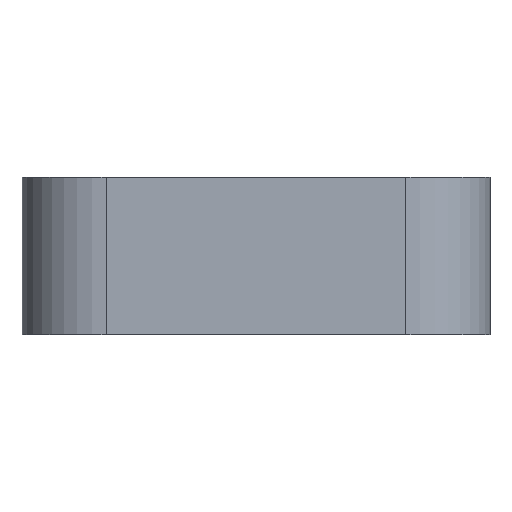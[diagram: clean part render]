
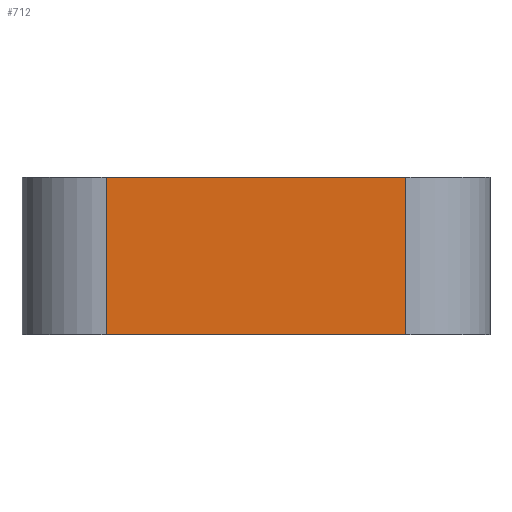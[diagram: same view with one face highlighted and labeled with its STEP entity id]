
A CAD part, left-side view. The second image highlights one B-rep face of the part: STEP entity #712.
In plain terms, the highlighted planar face has unit normal (-1, 0, 0).
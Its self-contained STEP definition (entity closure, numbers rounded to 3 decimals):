
#654=CARTESIAN_POINT('',(-11.545,-4.75,5.0));
#655=VERTEX_POINT('',#654);
#663=CARTESIAN_POINT('',(-11.545,-4.75,0.0));
#664=VERTEX_POINT('',#663);
#665=CARTESIAN_POINT('',(-11.545,-4.75,0.0));
#666=DIRECTION('',(0.0,0.0,1.0));
#667=VECTOR('',#666,5.0);
#668=LINE('',#665,#667);
#669=EDGE_CURVE('',#664,#655,#668,.T.);
#682=CARTESIAN_POINT('',(-11.545,-4.75,0.0));
#683=DIRECTION('',(-1.0,0.0,0.0));
#684=DIRECTION('',(0.0,0.0,1.0));
#685=AXIS2_PLACEMENT_3D('',#682,#683,#684);
#686=PLANE('',#685);
#687=CARTESIAN_POINT('',(-11.545,4.75,5.0));
#688=VERTEX_POINT('',#687);
#689=CARTESIAN_POINT('',(-11.545,-4.75,5.0));
#690=DIRECTION('',(0.0,1.0,0.0));
#691=VECTOR('',#690,9.5);
#692=LINE('',#689,#691);
#693=EDGE_CURVE('',#655,#688,#692,.T.);
#694=ORIENTED_EDGE('',*,*,#693,.T.);
#695=CARTESIAN_POINT('',(-11.545,4.75,0.0));
#696=VERTEX_POINT('',#695);
#697=CARTESIAN_POINT('',(-11.545,4.75,0.0));
#698=DIRECTION('',(0.0,0.0,1.0));
#699=VECTOR('',#698,5.0);
#700=LINE('',#697,#699);
#701=EDGE_CURVE('',#696,#688,#700,.T.);
#702=ORIENTED_EDGE('',*,*,#701,.F.);
#703=CARTESIAN_POINT('',(-11.545,-4.75,0.0));
#704=DIRECTION('',(0.0,1.0,0.0));
#705=VECTOR('',#704,9.5);
#706=LINE('',#703,#705);
#707=EDGE_CURVE('',#664,#696,#706,.T.);
#708=ORIENTED_EDGE('',*,*,#707,.F.);
#709=ORIENTED_EDGE('',*,*,#669,.T.);
#710=EDGE_LOOP('',(#694,#702,#708,#709));
#711=FACE_OUTER_BOUND('',#710,.T.);
#712=ADVANCED_FACE('',(#711),#686,.T.);
